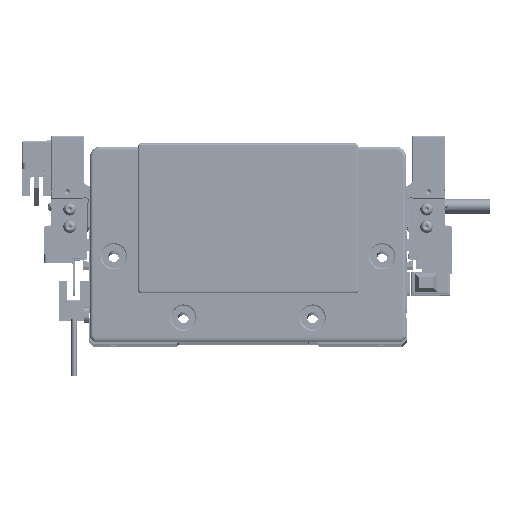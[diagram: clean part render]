
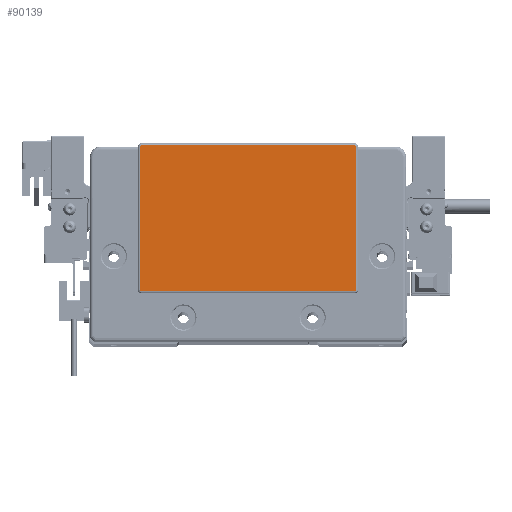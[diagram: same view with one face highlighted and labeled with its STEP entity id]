
A CAD part, top view. The second image highlights one B-rep face of the part: STEP entity #90139.
In plain terms, the highlighted planar face has unit normal (0, 0, 1) as drawn and (0, 0, -1) by its records, which use the part's own axes.
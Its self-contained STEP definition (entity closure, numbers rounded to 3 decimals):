
#2185 = CARTESIAN_POINT ( 'NONE',  ( 48.75, 44.3, -2. ) ) ;
#3714 = CIRCLE ( 'NONE', #8522, 0.5 ) ;
#4638 = DIRECTION ( 'NONE',  ( 0., 0., -1. ) ) ;
#5874 = CARTESIAN_POINT ( 'NONE',  ( 49.25, -21.8, -2. ) ) ;
#8522 = AXIS2_PLACEMENT_3D ( 'NONE', #43273, #41800, #65879 ) ;
#11529 = CARTESIAN_POINT ( 'NONE',  ( -48.75, -22.3, -2. ) ) ;
#12282 = VERTEX_POINT ( 'NONE', #71885 ) ;
#13481 = CARTESIAN_POINT ( 'NONE',  ( 49.25, -21.8, -2. ) ) ;
#16101 = EDGE_CURVE ( 'NONE', #54246, #70930, #3714, .T. ) ;
#16883 = ORIENTED_EDGE ( 'NONE', *, *, #60169, .T. ) ;
#18417 = VECTOR ( 'NONE', #25424, 1000. ) ;
#19177 = CARTESIAN_POINT ( 'NONE',  ( -49.25, 43.8, -2. ) ) ;
#23407 = DIRECTION ( 'NONE',  ( -1., 0., 0. ) ) ;
#23487 = ORIENTED_EDGE ( 'NONE', *, *, #16101, .T. ) ;
#25092 = EDGE_CURVE ( 'NONE', #48174, #83209, #39401, .T. ) ;
#25424 = DIRECTION ( 'NONE',  ( 0., 1., 0. ) ) ;
#26357 = DIRECTION ( 'NONE',  ( 0., 0., -1. ) ) ;
#26417 = LINE ( 'NONE', #49090, #18417 ) ;
#26862 = LINE ( 'NONE', #78696, #80680 ) ;
#27356 = PLANE ( 'NONE',  #52941 ) ;
#27675 = VERTEX_POINT ( 'NONE', #79722 ) ;
#28764 = AXIS2_PLACEMENT_3D ( 'NONE', #31328, #62470, #91168 ) ;
#29788 = ORIENTED_EDGE ( 'NONE', *, *, #61232, .T. ) ;
#31328 = CARTESIAN_POINT ( 'NONE',  ( -48.75, 43.8, -2. ) ) ;
#35304 = DIRECTION ( 'NONE',  ( -1., 0., 0. ) ) ;
#35549 = DIRECTION ( 'NONE',  ( 0., -1., 0. ) ) ;
#36148 = ORIENTED_EDGE ( 'NONE', *, *, #66151, .T. ) ;
#39401 = CIRCLE ( 'NONE', #61824, 0.5 ) ;
#41800 = DIRECTION ( 'NONE',  ( 0., 0., -1. ) ) ;
#42369 = DIRECTION ( 'NONE',  ( 0., 0., -1. ) ) ;
#43273 = CARTESIAN_POINT ( 'NONE',  ( 48.75, -21.8, -2. ) ) ;
#44351 = DIRECTION ( 'NONE',  ( -1., 0., 0. ) ) ;
#45366 = CARTESIAN_POINT ( 'NONE',  ( -48.75, -21.8, -2. ) ) ;
#46686 = EDGE_CURVE ( 'NONE', #77363, #48174, #26862, .T. ) ;
#48174 = VERTEX_POINT ( 'NONE', #2185 ) ;
#49031 = CARTESIAN_POINT ( 'NONE',  ( 0., 0., -2. ) ) ;
#49090 = CARTESIAN_POINT ( 'NONE',  ( -49.25, 43.8, -2. ) ) ;
#51113 = CARTESIAN_POINT ( 'NONE',  ( 49.25, 43.8, -2. ) ) ;
#52941 = AXIS2_PLACEMENT_3D ( 'NONE', #49031, #26357, #88710 ) ;
#54246 = VERTEX_POINT ( 'NONE', #13481 ) ;
#57695 = CIRCLE ( 'NONE', #28764, 0.5 ) ;
#59433 = CIRCLE ( 'NONE', #91535, 0.5 ) ;
#60169 = EDGE_CURVE ( 'NONE', #12282, #27675, #59433, .T. ) ;
#61114 = LINE ( 'NONE', #11529, #65690 ) ;
#61232 = EDGE_CURVE ( 'NONE', #83209, #54246, #66196, .T. ) ;
#61824 = AXIS2_PLACEMENT_3D ( 'NONE', #80561, #42369, #44351 ) ;
#62027 = ORIENTED_EDGE ( 'NONE', *, *, #78775, .T. ) ;
#62470 = DIRECTION ( 'NONE',  ( 0., 0., -1. ) ) ;
#64847 = CARTESIAN_POINT ( 'NONE',  ( 48.75, -22.3, -2. ) ) ;
#65119 = ORIENTED_EDGE ( 'NONE', *, *, #89917, .T. ) ;
#65690 = VECTOR ( 'NONE', #23407, 1000. ) ;
#65879 = DIRECTION ( 'NONE',  ( -1., 0., 0. ) ) ;
#66151 = EDGE_CURVE ( 'NONE', #69202, #77363, #57695, .T. ) ;
#66196 = LINE ( 'NONE', #5874, #74008 ) ;
#69202 = VERTEX_POINT ( 'NONE', #19177 ) ;
#70930 = VERTEX_POINT ( 'NONE', #64847 ) ;
#71885 = CARTESIAN_POINT ( 'NONE',  ( -48.75, -22.3, -2. ) ) ;
#73111 = FACE_OUTER_BOUND ( 'NONE', #79153, .T. ) ;
#74008 = VECTOR ( 'NONE', #35549, 1000. ) ;
#74266 = CARTESIAN_POINT ( 'NONE',  ( -48.75, 44.3, -2. ) ) ;
#77363 = VERTEX_POINT ( 'NONE', #74266 ) ;
#78333 = ORIENTED_EDGE ( 'NONE', *, *, #25092, .T. ) ;
#78696 = CARTESIAN_POINT ( 'NONE',  ( 48.75, 44.3, -2. ) ) ;
#78775 = EDGE_CURVE ( 'NONE', #27675, #69202, #26417, .T. ) ;
#79153 = EDGE_LOOP ( 'NONE', ( #29788, #23487, #65119, #16883, #62027, #36148, #97113, #78333 ) ) ;
#79191 = DIRECTION ( 'NONE',  ( 1., 0., 0. ) ) ;
#79722 = CARTESIAN_POINT ( 'NONE',  ( -49.25, -21.8, -2. ) ) ;
#80561 = CARTESIAN_POINT ( 'NONE',  ( 48.75, 43.8, -2. ) ) ;
#80680 = VECTOR ( 'NONE', #79191, 1000. ) ;
#83209 = VERTEX_POINT ( 'NONE', #51113 ) ;
#88710 = DIRECTION ( 'NONE',  ( -1., 0., 0. ) ) ;
#89917 = EDGE_CURVE ( 'NONE', #70930, #12282, #61114, .T. ) ;
#90139 = ADVANCED_FACE ( 'NONE', ( #73111 ), #27356, .T. ) ;
#91168 = DIRECTION ( 'NONE',  ( -1., 0., 0. ) ) ;
#91535 = AXIS2_PLACEMENT_3D ( 'NONE', #45366, #4638, #35304 ) ;
#97113 = ORIENTED_EDGE ( 'NONE', *, *, #46686, .T. ) ;
